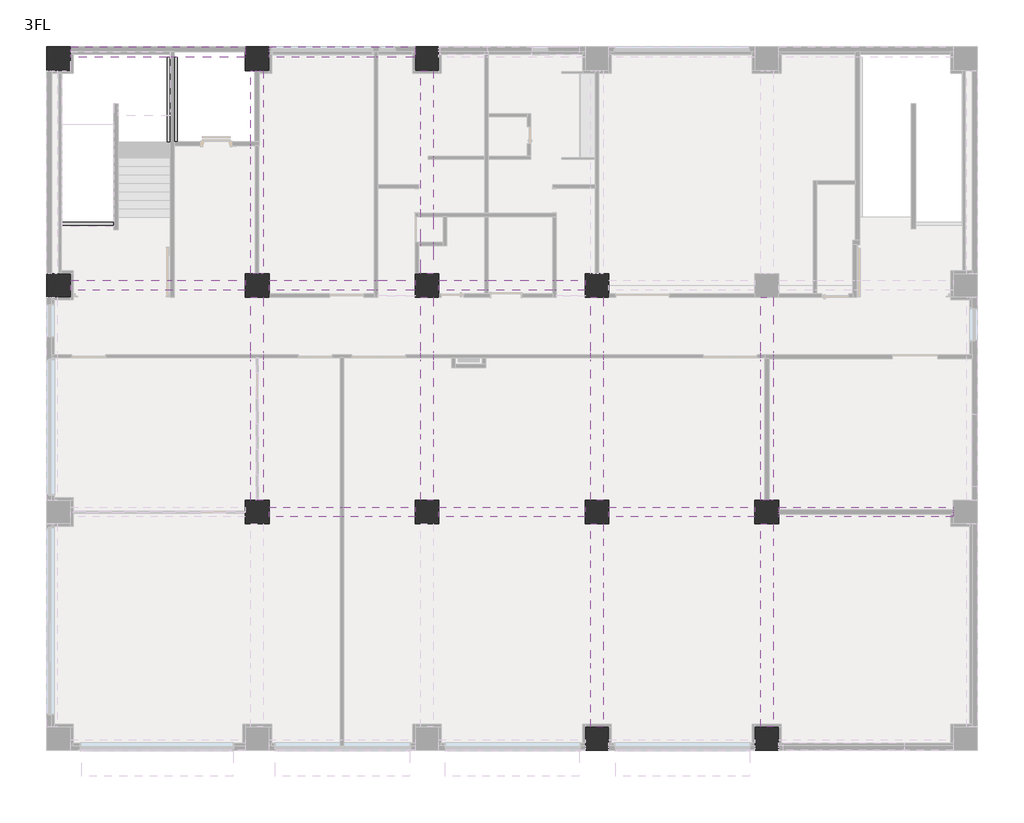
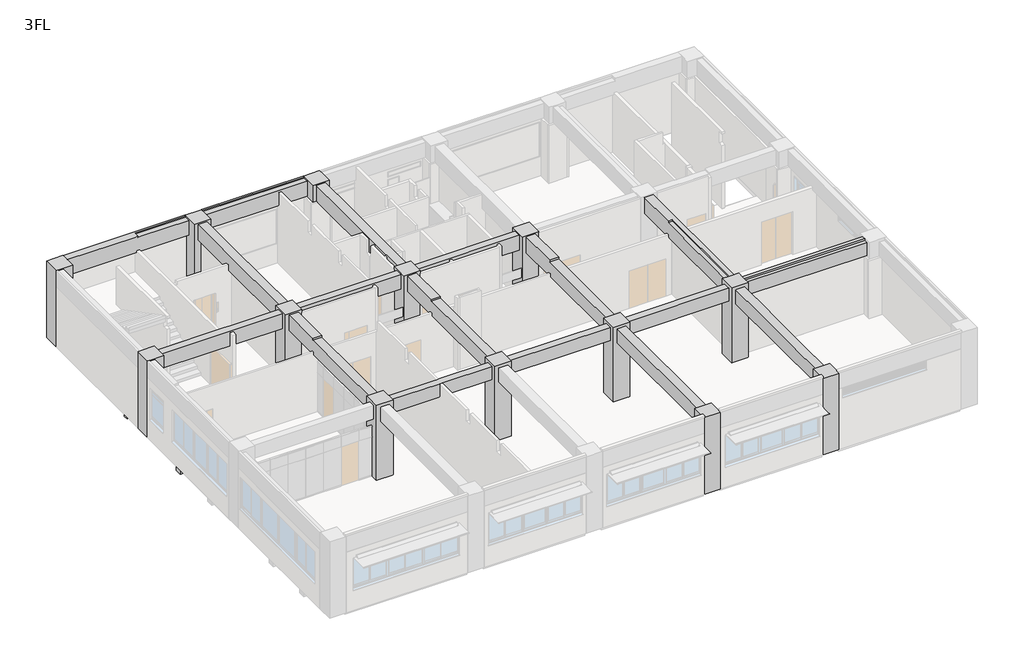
# One storey, part 5 of 6: 38 beams, 13 columns.
"""IFC4 building model written with IfcOpenShell, lengths in millimetres."""

from ifc_helpers import new_model, si_unit, frame, origin, place, context, project, spatial, polyline, outline, extrude, faceted_brep, element, save

model = new_model("IFC4")

# Units and contexts
model_context = context("Model", 3, world=origin())
ifc_project = project(units=[si_unit("LENGTHUNIT", "METRE", prefix="MILLI")], contexts=[model_context])

# Site, building, storey
site = spatial("IfcSite", under=ifc_project)
building = spatial("IfcBuilding", under=site)
storey = spatial("IfcBuildingStorey", under=building, Name="3FL", Elevation=8200.0)

# Beams
placement = place(None, origin())
element("IfcBeam", 1, ObjectType="営_RC梁 : 2-RG2 350*850", at=placement, inside=storey, context=model_context, shape_type="Brep", body=[
    faceted_brep([(7420.0, 7825.0, 11350.0), (9940.0, 7825.0, 11350.0), (10060.0, 7825.0, 11350.0), (12580.0, 7825.0, 11350.0), (12580.0, 7825.0, 12050.0), (10060.0, 7825.0, 12050.0), (9940.0, 7825.0, 12050.0), (7420.0, 7825.0, 12050.0), (7420.0, 8175.0, 11350.0), (9940.0, 8175.0, 11350.0), (10060.0, 8175.0, 11350.0), (12580.0, 8175.0, 11350.0), (7420.0, 8175.0, 12050.0), (9940.0, 8175.0, 12050.0), (10060.0, 8175.0, 12050.0), (12580.0, 8175.0, 12050.0)], [[[0, 1, 2, 3, 4, 5, 6, 7]], [[0, 8, 9, 10, 11, 3, 2, 1]], [[11, 10, 9, 8, 12, 13, 14, 15]], [[8, 0, 7, 12]], [[3, 11, 15, 4]], [[7, 6, 5, 4, 15, 14, 13, 12]]]),
])
element("IfcBeam", 2, ObjectType="営_RC梁 : 2-RG2 350*850", at=placement, inside=storey, context=model_context, shape_type="SweptSolid", body=[
    extrude(outline(polyline([(13420.0, 7825.0), (13420.0, 8175.0), (18580.0, 8175.0), (18580.0, 7825.0), (13420.0, 7825.0)])), frame((0.0, 0.0, 11350.0), z_axis=(0.0, 0.0, 1.0), x_axis=(1.0, 0.0, 0.0)), (0.0, 0.0, 1.0), 700.0),
])
element("IfcBeam", 3, ObjectType="営_RC梁 : 2-RG2 350*850", at=placement, inside=storey, context=model_context, shape_type="SweptSolid", body=[
    extrude(outline(polyline([(19420.0, 7825.0), (19420.0, 8175.0), (24580.0, 8175.0), (24580.0, 7825.0), (19420.0, 7825.0)])), frame((0.0, 0.0, 11350.0), z_axis=(0.0, 0.0, 1.0), x_axis=(1.0, 0.0, 0.0)), (0.0, 0.0, 1.0), 700.0),
])
element("IfcBeam", 4, ObjectType="営_RC梁 : 2-RG2 350*850", at=placement, inside=storey, context=model_context, shape_type="Brep", body=[
    faceted_brep([(25420.0, 7825.0, 11350.0), (31580.0, 7825.0, 11350.0), (31580.0, 7825.0, 12050.0), (25420.0, 7825.0, 12050.0), (25420.0, 7925.0, 11350.0), (25420.0, 8075.0, 11350.0), (25420.0, 8175.0, 11350.0), (31580.0, 8175.0, 11350.0), (31580.0, 8075.0, 11350.0), (31580.0, 7925.0, 11350.0), (25420.0, 8175.0, 12140.0), (31580.0, 8175.0, 12140.0), (25420.0, 8000.0, 12050.0), (25420.0, 8000.0, 12140.0), (31580.0, 8000.0, 12140.0), (31580.0, 8000.0, 12050.0)], [[[0, 1, 2, 3]], [[0, 4, 5, 6, 7, 8, 9, 1]], [[7, 6, 10, 11]], [[6, 5, 4, 0, 3, 12, 13, 10]], [[1, 9, 8, 7, 11, 14, 15, 2]], [[15, 12, 3, 2]], [[12, 15, 14, 13]], [[11, 10, 13, 14]]]),
])
element("IfcBeam", 5, ObjectType="営_RC梁 : 2-RG2 350*850", at=placement, inside=storey, context=model_context, shape_type="Brep", body=[
    faceted_brep([(420.0, 15825.0, 11350.0), (6580.0, 15825.0, 11350.0), (6580.0, 15825.0, 12140.0), (420.0, 15825.0, 12140.0), (6580.0, 16175.0, 11350.0), (420.0, 16175.0, 11350.0), (420.0, 16175.0, 12140.0), (3825.0, 16175.0, 12140.0), (4175.0, 16175.0, 12140.0), (6580.0, 16175.0, 12140.0)], [[[0, 1, 2, 3]], [[4, 1, 0, 5]], [[4, 5, 6, 7, 8, 9]], [[1, 4, 9, 2]], [[5, 0, 3, 6]], [[3, 2, 9, 8, 7, 6]]]),
])
element("IfcBeam", 6, ObjectType="営_RC梁 : 2-RG2 350*850", at=placement, inside=storey, context=model_context, shape_type="Brep", body=[
    faceted_brep([(7420.0, 15825.0, 11350.0), (11140.0, 15825.0, 11350.0), (11260.0, 15825.0, 11350.0), (12580.0, 15825.0, 11350.0), (12580.0, 15825.0, 12140.0), (7420.0, 15825.0, 12140.0), (7420.0, 16175.0, 11350.0), (11140.0, 16175.0, 11350.0), (11260.0, 16175.0, 11350.0), (12580.0, 16175.0, 11350.0), (7420.0, 16175.0, 12140.0), (12580.0, 16175.0, 12140.0)], [[[0, 1, 2, 3, 4, 5]], [[0, 6, 7, 8, 9, 3, 2, 1]], [[9, 8, 7, 6, 10, 11]], [[6, 0, 5, 10]], [[3, 9, 11, 4]], [[5, 4, 11, 10]]]),
])
element("IfcBeam", 7, ObjectType="営_RC梁 : 2-RG2 350*850", at=placement, inside=storey, context=model_context, shape_type="Brep", body=[
    faceted_brep([(13420.0, 15825.0, 11350.0), (15040.0, 15825.0, 11350.0), (15160.0, 15825.0, 11350.0), (17440.0, 15825.0, 11350.0), (17560.0, 15825.0, 11350.0), (18580.0, 15825.0, 11350.0), (18580.0, 15825.0, 12140.0), (13420.0, 15825.0, 12140.0), (13420.0, 16175.0, 11350.0), (15040.0, 16175.0, 11350.0), (15160.0, 16175.0, 11350.0), (17440.0, 16175.0, 11350.0), (17560.0, 16175.0, 11350.0), (18580.0, 16175.0, 11350.0), (13420.0, 16175.0, 12140.0), (18580.0, 16175.0, 12140.0)], [[[0, 1, 2, 3, 4, 5, 6, 7]], [[0, 8, 9, 10, 11, 12, 13, 5, 4, 3, 2, 1]], [[13, 12, 11, 10, 9, 8, 14, 15]], [[8, 0, 7, 14]], [[5, 13, 15, 6]], [[7, 6, 15, 14]]]),
])
element("IfcBeam", 8, ObjectType="営_RC梁 : 2-RG1 350*850", at=placement, inside=storey, context=model_context, shape_type="Brep", body=[
    faceted_brep([(420.0, 24050.0, 11350.0), (3925.0, 24050.0, 11350.0), (4075.0, 24050.0, 11350.0), (6580.0, 24050.0, 11350.0), (6580.0, 24050.0, 12140.0), (4175.0, 24050.0, 12140.0), (4000.0, 24050.0, 12140.0), (4000.0, 24050.0, 12200.0), (3825.0, 24050.0, 12200.0), (420.0, 24050.0, 12200.0), (6580.0, 24420.0, 11350.0), (6580.0, 24250.0, 11350.0), (420.0, 24250.0, 11350.0), (420.0, 24420.0, 11350.0), (6580.0, 24420.0, 12200.0), (420.0, 24420.0, 12200.0), (4000.0, 24335.0, 12200.0), (6580.0, 24335.0, 12200.0), (6580.0, 24335.0, 12140.0), (4000.0, 24335.0, 12140.0)], [[[0, 1, 2, 3, 4, 5, 6, 7, 8, 9]], [[10, 11, 3, 2, 1, 0, 12, 13]], [[14, 10, 13, 15]], [[14, 15, 9, 8, 7, 16, 17]], [[3, 11, 10, 14, 17, 18, 4]], [[0, 9, 15, 13, 12]], [[18, 19, 6, 5, 4]], [[19, 18, 17, 16]], [[6, 19, 16, 7]]]),
])
element("IfcBeam", 9, ObjectType="営_RC梁 : 2-RG1 350*850", at=placement, inside=storey, context=model_context, shape_type="Brep", body=[
    faceted_brep([(7420.0, 24050.0, 11350.0), (11140.0, 24050.0, 11350.0), (11260.0, 24050.0, 11350.0), (12580.0, 24050.0, 11350.0), (12580.0, 24050.0, 12140.0), (7420.0, 24050.0, 12140.0), (7420.0, 24250.0, 11350.0), (7420.0, 24420.0, 11350.0), (12580.0, 24420.0, 11350.0), (12580.0, 24250.0, 11350.0), (7420.0, 24420.0, 12200.0), (12580.0, 24420.0, 12200.0), (7420.0, 24335.0, 12200.0), (12580.0, 24335.0, 12200.0), (7420.0, 24335.0, 12140.0), (12580.0, 24335.0, 12140.0)], [[[0, 1, 2, 3, 4, 5]], [[0, 6, 7, 8, 9, 3, 2, 1]], [[7, 10, 11, 8]], [[11, 10, 12, 13]], [[7, 6, 0, 5, 14, 12, 10]], [[3, 9, 8, 11, 13, 15, 4]], [[15, 14, 5, 4]], [[14, 15, 13, 12]]]),
])
element("IfcBeam", 10, ObjectType="営_RC梁 : 2-4G12 450*900", at=placement, inside=storey, context=model_context, shape_type="Brep", body=[
    faceted_brep([(7225.0, 8420.0, 11300.0), (7225.0, 13440.0, 11300.0), (7225.0, 13560.0, 11300.0), (7225.0, 15580.0, 11300.0), (7225.0, 15580.0, 12140.0), (7225.0, 13675.0, 12140.0), (7225.0, 13500.0, 12140.0), (7225.0, 13500.0, 12050.0), (7225.0, 13325.0, 12050.0), (7225.0, 10925.0, 12050.0), (7225.0, 10575.0, 12050.0), (7225.0, 8420.0, 12050.0), (6775.0, 8420.0, 11300.0), (6775.0, 13440.0, 11300.0), (6775.0, 13560.0, 11300.0), (6775.0, 15580.0, 11300.0), (6775.0, 8420.0, 12050.0), (6775.0, 10575.0, 12050.0), (6775.0, 10925.0, 12050.0), (6775.0, 13325.0, 12050.0), (6775.0, 13500.0, 12050.0), (6775.0, 13500.0, 12140.0), (6775.0, 13675.0, 12140.0), (6775.0, 15580.0, 12140.0)], [[[0, 1, 2, 3, 4, 5, 6, 7, 8, 9, 10, 11]], [[0, 12, 13, 14, 15, 3, 2, 1]], [[15, 14, 13, 12, 16, 17, 18, 19, 20, 21, 22, 23]], [[12, 0, 11, 16]], [[3, 15, 23, 4]], [[7, 20, 19, 18, 17, 16, 11, 10, 9, 8]], [[20, 7, 6, 21]], [[6, 5, 4, 23, 22, 21]]]),
])
element("IfcBeam", 11, ObjectType="営_RC梁 : 2-4G12 450*900", at=placement, inside=storey, context=model_context, shape_type="Brep", body=[
    faceted_brep([(7225.0, 16420.0, 11300.0), (7225.0, 23580.0, 11300.0), (7225.0, 23580.0, 12140.0), (7225.0, 21515.0, 12140.0), (7225.0, 21165.0, 12140.0), (7225.0, 18845.0, 12140.0), (7225.0, 18495.0, 12140.0), (7225.0, 16420.0, 12140.0), (7060.0, 16420.0, 11300.0), (6940.0, 16420.0, 11300.0), (6775.0, 16420.0, 11300.0), (6775.0, 20925.0, 11300.0), (6775.0, 21075.0, 11300.0), (6775.0, 23580.0, 11300.0), (6925.0, 23580.0, 11300.0), (7075.0, 23580.0, 11300.0), (6775.0, 16420.0, 12140.0), (6775.0, 20825.0, 12140.0), (6775.0, 21075.0, 12140.0), (6775.0, 23580.0, 12140.0)], [[[0, 1, 2, 3, 4, 5, 6, 7]], [[0, 8, 9, 10, 11, 12, 13, 14, 15, 1]], [[13, 12, 11, 10, 16, 17, 18, 19]], [[10, 9, 8, 0, 7, 16]], [[1, 15, 14, 13, 19, 2]], [[7, 6, 5, 4, 3, 2, 19, 18, 17, 16]]]),
])
element("IfcBeam", 12, ObjectType="営_RC梁 : 2-4G12 450*900", at=placement, inside=storey, context=model_context, shape_type="Brep", body=[
    faceted_brep([(13225.0, 8420.0, 11300.0), (13225.0, 13440.0, 11300.0), (13225.0, 13560.0, 11300.0), (13225.0, 15580.0, 11300.0), (13225.0, 15580.0, 12140.0), (13225.0, 13675.0, 12140.0), (13225.0, 13500.0, 12140.0), (13225.0, 13500.0, 12050.0), (13225.0, 13325.0, 12050.0), (13225.0, 10925.0, 12050.0), (13225.0, 10575.0, 12050.0), (13225.0, 8420.0, 12050.0), (12775.0, 8420.0, 11300.0), (12775.0, 13440.0, 11300.0), (12775.0, 13560.0, 11300.0), (12775.0, 15580.0, 11300.0), (12775.0, 8420.0, 12050.0), (12775.0, 10575.0, 12050.0), (12775.0, 10925.0, 12050.0), (12775.0, 13325.0, 12050.0), (12775.0, 13500.0, 12050.0), (12775.0, 13500.0, 12140.0), (12775.0, 13675.0, 12140.0), (12775.0, 15580.0, 12140.0)], [[[0, 1, 2, 3, 4, 5, 6, 7, 8, 9, 10, 11]], [[0, 12, 13, 14, 15, 3, 2, 1]], [[15, 14, 13, 12, 16, 17, 18, 19, 20, 21, 22, 23]], [[12, 0, 11, 16]], [[3, 15, 23, 4]], [[7, 20, 19, 18, 17, 16, 11, 10, 9, 8]], [[20, 7, 6, 21]], [[6, 5, 4, 23, 22, 21]]]),
])
element("IfcBeam", 13, ObjectType="営_RC梁 : 2-4G12 450*900", at=placement, inside=storey, context=model_context, shape_type="Brep", body=[
    faceted_brep([(13225.0, 16420.0, 11300.0), (13225.0, 17400.0, 11300.0), (13225.0, 17520.0, 11300.0), (13225.0, 18430.0, 11300.0), (13225.0, 18550.0, 11300.0), (13225.0, 20450.0, 11300.0), (13225.0, 20570.0, 11300.0), (13225.0, 23580.0, 11300.0), (13225.0, 23580.0, 12140.0), (13225.0, 21515.0, 12140.0), (13225.0, 21165.0, 12140.0), (13225.0, 18845.0, 12140.0), (13225.0, 18495.0, 12140.0), (13225.0, 16420.0, 12140.0), (12775.0, 16420.0, 11300.0), (12775.0, 17400.0, 11300.0), (12775.0, 17520.0, 11300.0), (12775.0, 18430.0, 11300.0), (12775.0, 18550.0, 11300.0), (12775.0, 23580.0, 11300.0), (12775.0, 16420.0, 12140.0), (12775.0, 18495.0, 12140.0), (12775.0, 18845.0, 12140.0), (12775.0, 21165.0, 12140.0), (12775.0, 21515.0, 12140.0), (12775.0, 23580.0, 12140.0)], [[[0, 1, 2, 3, 4, 5, 6, 7, 8, 9, 10, 11, 12, 13]], [[0, 14, 15, 16, 17, 18, 19, 7, 6, 5, 4, 3, 2, 1]], [[19, 18, 17, 16, 15, 14, 20, 21, 22, 23, 24, 25]], [[14, 0, 13, 20]], [[7, 19, 25, 8]], [[13, 12, 11, 10, 9, 8, 25, 24, 23, 22, 21, 20]]]),
])
element("IfcBeam", 14, ObjectType="営_RC梁 : 2-4G12 450*900", at=placement, inside=storey, context=model_context, shape_type="Brep", body=[
    faceted_brep([(19225.0, 420.0, 11300.0), (19225.0, 7580.0, 11300.0), (19225.0, 7580.0, 12050.0), (19225.0, 5505.0, 12050.0), (19225.0, 5155.0, 12050.0), (19225.0, 2835.0, 12050.0), (19225.0, 2485.0, 12050.0), (19225.0, 420.0, 12050.0), (18775.0, 420.0, 11300.0), (18775.0, 7580.0, 11300.0), (18775.0, 420.0, 12050.0), (18775.0, 2485.0, 12050.0), (18775.0, 2835.0, 12050.0), (18775.0, 5155.0, 12050.0), (18775.0, 5505.0, 12050.0), (18775.0, 7580.0, 12050.0)], [[[0, 1, 2, 3, 4, 5, 6, 7]], [[0, 8, 9, 1]], [[9, 8, 10, 11, 12, 13, 14, 15]], [[8, 0, 7, 10]], [[1, 9, 15, 2]], [[7, 6, 5, 4, 3, 2, 15, 14, 13, 12, 11, 10]]]),
])
element("IfcBeam", 15, ObjectType="営_RC梁 : 2-4G12 450*900", at=placement, inside=storey, context=model_context, shape_type="Brep", body=[
    faceted_brep([(19225.0, 8420.0, 11300.0), (19225.0, 13440.0, 11300.0), (19225.0, 13560.0, 11300.0), (19225.0, 15580.0, 11300.0), (19225.0, 15580.0, 12140.0), (19225.0, 13675.0, 12140.0), (19225.0, 13500.0, 12140.0), (19225.0, 13500.0, 12050.0), (19225.0, 13325.0, 12050.0), (19225.0, 10925.0, 12050.0), (19225.0, 10575.0, 12050.0), (19225.0, 8420.0, 12050.0), (18775.0, 8420.0, 11300.0), (18775.0, 13440.0, 11300.0), (18775.0, 13560.0, 11300.0), (18775.0, 15580.0, 11300.0), (18775.0, 8420.0, 12050.0), (18775.0, 10575.0, 12050.0), (18775.0, 10925.0, 12050.0), (18775.0, 13325.0, 12050.0), (18775.0, 13500.0, 12050.0), (18775.0, 13500.0, 12140.0), (18775.0, 13675.0, 12140.0), (18775.0, 15580.0, 12140.0)], [[[0, 1, 2, 3, 4, 5, 6, 7, 8, 9, 10, 11]], [[0, 12, 13, 14, 15, 3, 2, 1]], [[15, 14, 13, 12, 16, 17, 18, 19, 20, 21, 22, 23]], [[12, 0, 11, 16]], [[3, 15, 23, 4]], [[7, 20, 19, 18, 17, 16, 11, 10, 9, 8]], [[20, 7, 6, 21]], [[6, 5, 4, 23, 22, 21]]]),
])
element("IfcBeam", 16, ObjectType="営_RC梁 : 2-4G12 450*900", at=placement, inside=storey, context=model_context, shape_type="Brep", body=[
    faceted_brep([(25225.0, 420.0, 11300.0), (25225.0, 7580.0, 11300.0), (25225.0, 7580.0, 12050.0), (25225.0, 5505.0, 12050.0), (25225.0, 5155.0, 12050.0), (25225.0, 2835.0, 12050.0), (25225.0, 2485.0, 12050.0), (25225.0, 420.0, 12050.0), (24775.0, 420.0, 11300.0), (24775.0, 7580.0, 11300.0), (24775.0, 420.0, 12050.0), (24775.0, 2485.0, 12050.0), (24775.0, 2835.0, 12050.0), (24775.0, 5155.0, 12050.0), (24775.0, 5505.0, 12050.0), (24775.0, 7580.0, 12050.0)], [[[0, 1, 2, 3, 4, 5, 6, 7]], [[0, 8, 9, 1]], [[9, 8, 10, 11, 12, 13, 14, 15]], [[8, 0, 7, 10]], [[1, 9, 15, 2]], [[7, 6, 5, 4, 3, 2, 15, 14, 13, 12, 11, 10]]]),
])
element("IfcBeam", 17, ObjectType="営_RC梁 : 2-4G12 450*900", at=placement, inside=storey, context=model_context, shape_type="Brep", body=[
    faceted_brep([(25225.0, 8420.0, 11300.0), (25225.0, 13405.0, 11300.0), (25225.0, 13555.0, 11300.0), (25225.0, 15580.0, 11300.0), (25225.0, 15580.0, 12140.0), (25225.0, 13675.0, 12140.0), (25225.0, 13325.0, 12140.0), (25225.0, 10925.0, 12140.0), (25225.0, 10575.0, 12140.0), (25225.0, 8420.0, 12140.0), (25075.0, 8420.0, 11300.0), (24925.0, 8420.0, 11300.0), (24775.0, 8420.0, 11300.0), (24775.0, 13440.0, 11300.0), (24775.0, 13560.0, 11300.0), (24775.0, 15580.0, 11300.0), (24775.0, 8420.0, 12050.0), (24775.0, 10575.0, 12050.0), (24775.0, 10925.0, 12050.0), (24775.0, 13325.0, 12050.0), (24775.0, 13500.0, 12050.0), (24775.0, 13500.0, 12140.0), (24775.0, 13675.0, 12140.0), (24775.0, 15580.0, 12140.0), (25000.0, 8420.0, 12140.0), (25000.0, 8420.0, 12050.0), (25000.0, 13500.0, 12050.0), (25000.0, 13500.0, 12140.0)], [[[0, 1, 2, 3, 4, 5, 6, 7, 8, 9]], [[0, 10, 11, 12, 13, 14, 15, 3, 2, 1]], [[15, 14, 13, 12, 16, 17, 18, 19, 20, 21, 22, 23]], [[12, 11, 10, 0, 9, 24, 25, 16]], [[3, 15, 23, 4]], [[25, 26, 20, 19, 18, 17, 16]], [[20, 26, 27, 21]], [[26, 25, 24, 27]], [[9, 8, 7, 6, 5, 4, 23, 22, 21, 27, 24]]]),
])
element("IfcBeam", 18, ObjectType="営_RC梁 : B2 350*750", at=placement, inside=storey, context=model_context, shape_type="SweptSolid", body=[
    extrude(outline(polyline([(25225.0, 2485.0), (25225.0, 2835.0), (32050.0, 2835.0), (32050.0, 2485.0), (25225.0, 2485.0)])), frame((0.0, 0.0, 7350.0), z_axis=(0.0, 0.0, 1.0), x_axis=(1.0, 0.0, 0.0)), (0.0, 0.0, 1.0), 600.0),
])
element("IfcBeam", 19, ObjectType="営_RC梁 : B2 350*750", at=placement, inside=storey, context=model_context, shape_type="SweptSolid", body=[
    extrude(outline(polyline([(25225.0, 5155.0), (25225.0, 5505.0), (32050.0, 5505.0), (32050.0, 5155.0), (25225.0, 5155.0)])), frame((0.0, 0.0, 7350.0), z_axis=(0.0, 0.0, 1.0), x_axis=(1.0, 0.0, 0.0)), (0.0, 0.0, 1.0), 600.0),
])
element("IfcBeam", 20, ObjectType="営_RC梁 : B2 350*750", at=placement, inside=storey, context=model_context, shape_type="SweptSolid", body=[
    extrude(outline(polyline([(25225.0, 10575.0), (25225.0, 10925.0), (32050.0, 10925.0), (32050.0, 10575.0), (25225.0, 10575.0)])), frame((0.0, 0.0, 7350.0), z_axis=(0.0, 0.0, 1.0), x_axis=(1.0, 0.0, 0.0)), (0.0, 0.0, 1.0), 690.0),
])
element("IfcBeam", 21, ObjectType="営_RC梁 : B2 350*750", at=placement, inside=storey, context=model_context, shape_type="Brep", body=[
    faceted_brep([(25225.0, 13325.0, 7350.0), (32050.0, 13325.0, 7350.0), (32050.0, 13325.0, 8040.0), (25225.0, 13325.0, 8040.0), (25225.0, 13410.0, 7350.0), (25225.0, 13560.0, 7350.0), (25225.0, 13675.0, 7350.0), (32050.0, 13675.0, 7350.0), (32050.0, 13560.0, 7350.0), (32050.0, 13410.0, 7350.0), (25225.0, 13675.0, 8040.0), (32050.0, 13675.0, 8040.0)], [[[0, 1, 2, 3]], [[0, 4, 5, 6, 7, 8, 9, 1]], [[7, 6, 10, 11]], [[6, 5, 4, 0, 3, 10]], [[1, 9, 8, 7, 11, 2]], [[3, 2, 11, 10]]]),
])
element("IfcBeam", 22, ObjectType="営_RC梁 : B2 350*750", at=placement, inside=storey, context=model_context, shape_type="Brep", body=[
    faceted_brep([(19225.0, 2485.0, 7350.0), (20940.0, 2485.0, 7350.0), (21060.0, 2485.0, 7350.0), (24775.0, 2485.0, 7350.0), (24775.0, 2485.0, 7950.0), (21060.0, 2485.0, 7950.0), (20940.0, 2485.0, 7950.0), (19225.0, 2485.0, 7950.0), (19225.0, 2835.0, 7350.0), (20940.0, 2835.0, 7350.0), (21060.0, 2835.0, 7350.0), (24775.0, 2835.0, 7350.0), (19225.0, 2835.0, 7950.0), (20940.0, 2835.0, 7950.0), (21060.0, 2835.0, 7950.0), (24775.0, 2835.0, 7950.0)], [[[0, 1, 2, 3, 4, 5, 6, 7]], [[0, 8, 9, 10, 11, 3, 2, 1]], [[11, 10, 9, 8, 12, 13, 14, 15]], [[8, 0, 7, 12]], [[3, 11, 15, 4]], [[7, 6, 5, 4, 15, 14, 13, 12]]]),
])
element("IfcBeam", 23, ObjectType="営_RC梁 : B2 350*750", at=placement, inside=storey, context=model_context, shape_type="Brep", body=[
    faceted_brep([(19225.0, 5155.0, 7350.0), (20940.0, 5155.0, 7350.0), (21060.0, 5155.0, 7350.0), (24775.0, 5155.0, 7350.0), (24775.0, 5155.0, 7950.0), (21060.0, 5155.0, 7950.0), (20940.0, 5155.0, 7950.0), (19225.0, 5155.0, 7950.0), (19225.0, 5505.0, 7350.0), (20940.0, 5505.0, 7350.0), (21060.0, 5505.0, 7350.0), (24775.0, 5505.0, 7350.0), (19225.0, 5505.0, 7950.0), (20940.0, 5505.0, 7950.0), (21060.0, 5505.0, 7950.0), (24775.0, 5505.0, 7950.0)], [[[0, 1, 2, 3, 4, 5, 6, 7]], [[0, 8, 9, 10, 11, 3, 2, 1]], [[11, 10, 9, 8, 12, 13, 14, 15]], [[8, 0, 7, 12]], [[3, 11, 15, 4]], [[7, 6, 5, 4, 15, 14, 13, 12]]]),
])
element("IfcBeam", 24, ObjectType="営_RC梁 : B2 350*750", at=placement, inside=storey, context=model_context, shape_type="Brep", body=[
    faceted_brep([(19225.0, 10575.0, 7350.0), (20940.0, 10575.0, 7350.0), (21060.0, 10575.0, 7350.0), (24775.0, 10575.0, 7350.0), (24775.0, 10575.0, 7950.0), (21060.0, 10575.0, 7950.0), (20940.0, 10575.0, 7950.0), (19225.0, 10575.0, 7950.0), (19225.0, 10925.0, 7350.0), (20940.0, 10925.0, 7350.0), (21060.0, 10925.0, 7350.0), (24775.0, 10925.0, 7350.0), (19225.0, 10925.0, 7950.0), (20940.0, 10925.0, 7950.0), (21060.0, 10925.0, 7950.0), (24775.0, 10925.0, 7950.0)], [[[0, 1, 2, 3, 4, 5, 6, 7]], [[0, 8, 9, 10, 11, 3, 2, 1]], [[11, 10, 9, 8, 12, 13, 14, 15]], [[8, 0, 7, 12]], [[3, 11, 15, 4]], [[7, 6, 5, 4, 15, 14, 13, 12]]]),
])
element("IfcBeam", 25, ObjectType="営_RC梁 : B2 350*750", at=placement, inside=storey, context=model_context, shape_type="Brep", body=[
    faceted_brep([(19225.0, 13325.0, 7350.0), (20940.0, 13325.0, 7350.0), (21060.0, 13325.0, 7350.0), (24775.0, 13325.0, 7350.0), (24775.0, 13325.0, 7950.0), (21060.0, 13325.0, 7950.0), (20940.0, 13325.0, 7950.0), (19225.0, 13325.0, 7950.0), (19225.0, 13675.0, 7350.0), (24775.0, 13675.0, 7350.0), (24775.0, 13560.0, 7350.0), (24775.0, 13440.0, 7350.0), (19225.0, 13675.0, 8040.0), (24775.0, 13675.0, 8040.0), (19225.0, 13500.0, 7950.0), (19225.0, 13500.0, 8040.0), (24775.0, 13500.0, 8040.0), (24775.0, 13500.0, 7950.0)], [[[0, 1, 2, 3, 4, 5, 6, 7]], [[0, 8, 9, 10, 11, 3, 2, 1]], [[9, 8, 12, 13]], [[8, 0, 7, 14, 15, 12]], [[3, 11, 10, 9, 13, 16, 17, 4]], [[17, 14, 7, 6, 5, 4]], [[14, 17, 16, 15]], [[13, 12, 15, 16]]]),
])
element("IfcBeam", 26, ObjectType="営_RC梁 : B2 350*750", at=placement, inside=storey, context=model_context, shape_type="SweptSolid", body=[
    extrude(outline(polyline([(13225.0, 5155.0), (13225.0, 5505.0), (18775.0, 5505.0), (18775.0, 5155.0), (13225.0, 5155.0)])), frame((0.0, 0.0, 7350.0), z_axis=(0.0, 0.0, 1.0), x_axis=(1.0, 0.0, 0.0)), (0.0, 0.0, 1.0), 600.0),
])
element("IfcBeam", 27, ObjectType="営_RC梁 : B2 350*750", at=placement, inside=storey, context=model_context, shape_type="SweptSolid", body=[
    extrude(outline(polyline([(13225.0, 2485.0), (13225.0, 2835.0), (18775.0, 2835.0), (18775.0, 2485.0), (13225.0, 2485.0)])), frame((0.0, 0.0, 7350.0), z_axis=(0.0, 0.0, 1.0), x_axis=(1.0, 0.0, 0.0)), (0.0, 0.0, 1.0), 600.0),
])
element("IfcBeam", 28, ObjectType="営_RC梁 : B1 350*750", at=placement, inside=storey, context=model_context, shape_type="SweptSolid", body=[
    extrude(outline(polyline([(13675.0, 7350.0), (13325.0, 7350.0), (13325.0, 7950.0), (13500.0, 7950.0), (13500.0, 8040.0), (13675.0, 8040.0), (13675.0, 7350.0)])), frame((-50.0, 0.0, 0.0), z_axis=(1.0, 0.0, 0.0), x_axis=(0.0, 1.0, 0.0)), (0.0, 0.0, 1.0), 6825.0),
])
element("IfcBeam", 29, ObjectType="営_RC梁 : B2 350*750", at=placement, inside=storey, context=model_context, shape_type="SweptSolid", body=[
    extrude(outline(polyline([(7225.0, 10575.0), (7225.0, 10925.0), (12775.0, 10925.0), (12775.0, 10575.0), (7225.0, 10575.0)])), frame((0.0, 0.0, 7350.0), z_axis=(0.0, 0.0, 1.0), x_axis=(1.0, 0.0, 0.0)), (0.0, 0.0, 1.0), 600.0),
])
element("IfcBeam", 30, ObjectType="営_RC梁 : B2 350*750", at=placement, inside=storey, context=model_context, shape_type="SweptSolid", body=[
    extrude(outline(polyline([(13675.0, 7350.0), (13325.0, 7350.0), (13325.0, 7950.0), (13500.0, 7950.0), (13500.0, 8040.0), (13675.0, 8040.0), (13675.0, 7350.0)])), frame((7225.0, 0.0, 0.0), z_axis=(1.0, 0.0, 0.0), x_axis=(0.0, 1.0, 0.0)), (0.0, 0.0, 1.0), 5550.0),
])
element("IfcBeam", 31, ObjectType="営_RC梁 : B2 350*750", at=placement, inside=storey, context=model_context, shape_type="SweptSolid", body=[
    extrude(outline(polyline([(18775.0, 10925.0), (18775.0, 10575.0), (13225.0, 10575.0), (13225.0, 10925.0), (18775.0, 10925.0)])), frame((0.0, 0.0, 7350.0), z_axis=(0.0, 0.0, 1.0), x_axis=(1.0, 0.0, 0.0)), (0.0, 0.0, 1.0), 600.0),
])
element("IfcBeam", 32, ObjectType="営_RC梁 : B2 350*750", at=placement, inside=storey, context=model_context, shape_type="Brep", body=[
    faceted_brep([(13225.0, 13325.0, 7350.0), (13870.0, 13325.0, 7350.0), (13990.0, 13325.0, 7350.0), (14950.0, 13325.0, 7350.0), (15070.0, 13325.0, 7350.0), (18775.0, 13325.0, 7350.0), (18775.0, 13325.0, 7950.0), (15070.0, 13325.0, 7950.0), (14950.0, 13325.0, 7950.0), (13990.0, 13325.0, 7950.0), (13870.0, 13325.0, 7950.0), (13225.0, 13325.0, 7950.0), (18775.0, 13675.0, 7350.0), (13225.0, 13675.0, 7350.0), (13225.0, 13675.0, 8040.0), (18775.0, 13675.0, 8040.0), (18775.0, 13500.0, 8040.0), (18775.0, 13500.0, 7950.0), (13225.0, 13500.0, 7950.0), (13225.0, 13500.0, 8040.0)], [[[0, 1, 2, 3, 4, 5, 6, 7, 8, 9, 10, 11]], [[12, 5, 4, 3, 2, 1, 0, 13]], [[12, 13, 14, 15]], [[5, 12, 15, 16, 17, 6]], [[13, 0, 11, 18, 19, 14]], [[17, 18, 11, 10, 9, 8, 7, 6]], [[18, 17, 16, 19]], [[15, 14, 19, 16]]]),
])
element("IfcBeam", 33, ObjectType="営_RC梁 : B1 350*750", at=placement, inside=storey, context=model_context, shape_type="Brep", body=[
    faceted_brep([(13225.0, 18495.0, 7350.0), (13570.0, 18495.0, 7350.0), (13690.0, 18495.0, 7350.0), (15160.0, 18495.0, 7350.0), (17560.0, 18495.0, 7350.0), (18775.0, 18495.0, 7350.0), (18775.0, 18495.0, 8040.0), (13225.0, 18495.0, 8040.0), (13225.0, 18495.0, 7950.0), (13225.0, 18550.0, 7350.0), (13225.0, 18845.0, 7350.0), (15040.0, 18845.0, 7350.0), (15160.0, 18845.0, 7350.0), (17440.0, 18845.0, 7350.0), (17560.0, 18845.0, 7350.0), (18775.0, 18845.0, 7350.0), (13225.0, 18845.0, 8040.0), (18775.0, 18845.0, 8040.0)], [[[0, 1, 2, 3, 4, 5, 6, 7, 8]], [[0, 9, 10, 11, 12, 13, 14, 15, 5, 4, 3, 2, 1]], [[15, 14, 13, 12, 11, 10, 16, 17]], [[10, 9, 0, 8, 7, 16]], [[5, 15, 17, 6]], [[7, 6, 17, 16]]]),
])
element("IfcBeam", 34, ObjectType="営_RC梁 : B1 350*750", at=placement, inside=storey, context=model_context, shape_type="Brep", body=[
    faceted_brep([(7225.0, 18495.0, 7350.0), (11140.0, 18495.0, 7350.0), (11260.0, 18495.0, 7350.0), (12580.0, 18495.0, 7350.0), (12700.0, 18495.0, 7350.0), (12775.0, 18495.0, 7350.0), (12775.0, 18495.0, 7950.0), (12775.0, 18495.0, 8040.0), (11200.0, 18495.0, 8040.0), (11200.0, 18495.0, 7950.0), (11140.0, 18495.0, 7950.0), (7225.0, 18495.0, 7950.0), (7225.0, 18845.0, 7350.0), (11140.0, 18845.0, 7350.0), (11260.0, 18845.0, 7350.0), (12580.0, 18845.0, 7350.0), (12700.0, 18845.0, 7350.0), (12775.0, 18845.0, 7350.0), (12775.0, 18550.0, 7350.0), (7225.0, 18845.0, 7950.0), (11140.0, 18845.0, 7950.0), (11200.0, 18845.0, 7950.0), (11200.0, 18845.0, 8040.0), (12775.0, 18845.0, 8040.0)], [[[0, 1, 2, 3, 4, 5, 6, 7, 8, 9, 10, 11]], [[0, 12, 13, 14, 15, 16, 17, 18, 5, 4, 3, 2, 1]], [[17, 16, 15, 14, 13, 12, 19, 20, 21, 22, 23]], [[12, 0, 11, 19]], [[5, 18, 17, 23, 7, 6]], [[8, 7, 23, 22]], [[9, 21, 20, 19, 11, 10]], [[21, 9, 8, 22]]]),
])
element("IfcBeam", 35, ObjectType="営_RC梁 : B1 350*750", at=placement, inside=storey, context=model_context, shape_type="Brep", body=[
    faceted_brep([(7225.0, 21165.0, 7350.0), (11140.0, 21165.0, 7350.0), (11260.0, 21165.0, 7350.0), (12775.0, 21165.0, 7350.0), (12775.0, 21165.0, 8040.0), (11200.0, 21165.0, 8040.0), (11200.0, 21165.0, 7950.0), (11140.0, 21165.0, 7950.0), (7225.0, 21165.0, 7950.0), (7225.0, 21515.0, 7350.0), (11140.0, 21515.0, 7350.0), (11260.0, 21515.0, 7350.0), (12775.0, 21515.0, 7350.0), (7225.0, 21515.0, 7950.0), (11140.0, 21515.0, 7950.0), (11200.0, 21515.0, 7950.0), (11200.0, 21515.0, 8040.0), (12775.0, 21515.0, 8040.0)], [[[0, 1, 2, 3, 4, 5, 6, 7, 8]], [[0, 9, 10, 11, 12, 3, 2, 1]], [[12, 11, 10, 9, 13, 14, 15, 16, 17]], [[9, 0, 8, 13]], [[3, 12, 17, 4]], [[5, 4, 17, 16]], [[6, 15, 14, 13, 8, 7]], [[15, 6, 5, 16]]]),
])
element("IfcBeam", 36, ObjectType="営_RC梁 : B3 250*600", at=placement, inside=storey, context=model_context, shape_type="Brep", body=[
    faceted_brep([(4306.3, 21075.0, 7500.0), (4306.3, 20925.0, 7500.0), (4306.3, 20825.0, 7500.0), (4306.3, 20825.0, 8040.0), (4306.3, 21075.0, 8040.0), (4306.3, 21075.0, 7950.0), (6775.0, 20825.0, 7500.0), (6775.0, 20825.0, 8040.0), (6775.0, 21075.0, 7500.0), (6775.0, 20925.0, 7500.0), (6775.0, 21075.0, 8040.0)], [[[0, 1, 2, 3, 4, 5]], [[2, 6, 7, 3]], [[2, 1, 0, 8, 9, 6]], [[8, 0, 5, 4, 10]], [[6, 9, 8, 10, 7]], [[4, 3, 7, 10]]]),
])
element("IfcBeam", 37, ObjectType="営_RC梁 : B4 350*750", at=placement, inside=storey, context=model_context, shape_type="Brep", body=[
    faceted_brep([(4175.0, 16175.0, 7350.0), (4175.0, 20925.0, 7350.0), (4175.0, 21075.0, 7350.0), (4175.0, 24050.0, 7350.0), (4175.0, 24050.0, 8100.0), (4175.0, 21075.0, 8100.0), (4175.0, 21075.0, 8040.0), (4175.0, 16175.0, 8040.0), (3825.0, 16175.0, 7350.0), (3825.0, 24050.0, 7350.0), (3925.0, 24050.0, 7350.0), (4075.0, 24050.0, 7350.0), (3825.0, 16175.0, 8040.0), (3825.0, 17975.0, 8040.0), (3825.0, 18225.0, 8040.0), (3825.0, 18400.0, 8040.0), (3825.0, 18400.0, 8100.0), (3825.0, 24050.0, 8100.0), (4000.0, 18400.0, 8100.0), (4000.0, 21075.0, 8100.0), (4000.0, 21075.0, 8040.0), (4000.0, 18400.0, 8040.0)], [[[0, 1, 2, 3, 4, 5, 6, 7]], [[0, 8, 9, 10, 11, 3, 2, 1]], [[9, 8, 12, 13, 14, 15, 16, 17]], [[4, 17, 16, 18, 19, 5]], [[8, 0, 7, 12]], [[4, 3, 11, 10, 9, 17]], [[20, 21, 15, 14, 13, 12, 7, 6]], [[15, 21, 18, 16]], [[21, 20, 19, 18]], [[20, 6, 5, 19]]]),
])
element("IfcBeam", 38, ObjectType="営_RC梁 : B3 250*600", at=placement, inside=storey, context=model_context, shape_type="Brep", body=[
    faceted_brep([(-50.0, 17975.0, 7500.0), (3825.0, 17975.0, 7500.0), (3825.0, 17975.0, 8040.0), (-50.0, 17975.0, 8040.0), (3825.0, 18225.0, 7500.0), (-50.0, 18225.0, 7500.0), (1945.0, 18225.0, 7500.0), (2095.0, 18225.0, 7500.0), (-50.0, 18225.0, 8040.0), (100.0, 18225.0, 8040.0), (100.0, 18225.0, 8100.0), (1945.0, 18225.0, 8100.0), (2095.0, 18225.0, 8100.0), (2095.0, 18225.0, 8040.0), (3825.0, 18225.0, 8040.0), (100.0, 18100.0, 8100.0), (1945.0, 18100.0, 8100.0), (1945.0, 18005.0, 8100.0), (2095.0, 18005.0, 8100.0), (1945.0, 18100.0, 8040.0), (100.0, 18100.0, 8040.0), (2095.0, 18005.0, 8040.0), (1945.0, 18005.0, 8040.0)], [[[0, 1, 2, 3]], [[4, 1, 0, 5, 6, 7]], [[4, 7, 6, 5, 8, 9, 10, 11, 12, 13, 14]], [[12, 11, 10, 15, 16, 17, 18]], [[1, 4, 14, 2]], [[5, 0, 3, 8]], [[19, 20, 9, 8, 3, 2, 14, 13, 21, 22]], [[9, 20, 15, 10]], [[20, 19, 16, 15]], [[19, 22, 17, 16]], [[22, 21, 18, 17]], [[21, 13, 12, 18]]]),
])

# Columns
element("IfcColumn", 39, ObjectType="営_RC柱_角 : 800*800", at=placement, inside=storey, context=model_context, shape_type="Brep", body=[
    faceted_brep([(19420.0, 420.0, 8100.0), (19420.0, -250.0, 8100.0), (19420.0, -420.0, 8100.0), (18580.0, -420.0, 8100.0), (18580.0, -250.0, 8100.0), (18580.0, 420.0, 8100.0), (19420.0, 420.0, 12200.0), (19420.0, -325.0, 12200.0), (19420.0, -420.0, 12200.0), (19420.0, -420.0, 11350.0), (19420.0, 420.0, 8180.0), (19420.0, 420.0, 8190.0), (19420.0, 420.0, 12050.0), (19395.0, -420.0, 12200.0), (18605.0, -420.0, 12200.0), (18580.0, -420.0, 12200.0), (18580.0, -420.0, 11350.0), (18580.0, -325.0, 12200.0), (18580.0, 420.0, 12200.0), (18580.0, 420.0, 12050.0), (18580.0, 420.0, 8190.0), (18580.0, 420.0, 8180.0)], [[[0, 1, 2, 3, 4, 5]], [[6, 7, 8, 9, 2, 1, 0, 10, 11, 12]], [[8, 13, 14, 15, 16, 3, 2, 9]], [[15, 17, 18, 19, 20, 21, 5, 4, 3, 16]], [[18, 6, 12, 11, 10, 0, 5, 21, 20, 19]], [[6, 18, 17, 15, 14, 13, 8, 7]]]),
])
element("IfcColumn", 40, ObjectType="営_RC柱_角 : 800*800", at=placement, inside=storey, context=model_context, shape_type="Brep", body=[
    faceted_brep([(25420.0, 420.0, 8100.0), (25420.0, -250.0, 8100.0), (25420.0, -420.0, 8100.0), (24580.0, -420.0, 8100.0), (24580.0, -250.0, 8100.0), (24580.0, 420.0, 8100.0), (25420.0, 420.0, 12200.0), (25420.0, -325.0, 12200.0), (25420.0, -420.0, 12200.0), (25420.0, -420.0, 11350.0), (25420.0, 420.0, 8180.0), (25420.0, 420.0, 8190.0), (25420.0, 420.0, 12050.0), (25395.0, -420.0, 12200.0), (24605.0, -420.0, 12200.0), (24580.0, -420.0, 12200.0), (24580.0, -420.0, 11350.0), (24580.0, -325.0, 12200.0), (24580.0, 420.0, 12200.0), (24580.0, 420.0, 12050.0), (24580.0, 420.0, 8190.0), (24580.0, 420.0, 8180.0)], [[[0, 1, 2, 3, 4, 5]], [[6, 7, 8, 9, 2, 1, 0, 10, 11, 12]], [[8, 13, 14, 15, 16, 3, 2, 9]], [[15, 17, 18, 19, 20, 21, 5, 4, 3, 16]], [[18, 6, 12, 11, 10, 0, 5, 21, 20, 19]], [[6, 18, 17, 15, 14, 13, 8, 7]]]),
])
element("IfcColumn", 41, ObjectType="営_RC柱_角 : 800*800", at=placement, inside=storey, context=model_context, shape_type="Brep", body=[
    faceted_brep([(7420.0, 8420.0, 8100.0), (7420.0, 7580.0, 8100.0), (6580.0, 7580.0, 8100.0), (6580.0, 8420.0, 8100.0), (7420.0, 8420.0, 12200.0), (7420.0, 7580.0, 12200.0), (7420.0, 7580.0, 12050.0), (7420.0, 7580.0, 8190.0), (7420.0, 7580.0, 8180.0), (7420.0, 8420.0, 8180.0), (7420.0, 8420.0, 8190.0), (7420.0, 8420.0, 12050.0), (6580.0, 7580.0, 12200.0), (6580.0, 7580.0, 12050.0), (6580.0, 7580.0, 8190.0), (6580.0, 7580.0, 8180.0), (6580.0, 8420.0, 12200.0), (6580.0, 8420.0, 12050.0), (6580.0, 8420.0, 8190.0), (6580.0, 8420.0, 8180.0)], [[[0, 1, 2, 3]], [[4, 5, 6, 7, 8, 1, 0, 9, 10, 11]], [[5, 12, 13, 14, 15, 2, 1, 8, 7, 6]], [[12, 16, 17, 18, 19, 3, 2, 15, 14, 13]], [[16, 4, 11, 10, 9, 0, 3, 19, 18, 17]], [[4, 16, 12, 5]]]),
])
element("IfcColumn", 42, ObjectType="営_RC柱_角 : 800*800", at=placement, inside=storey, context=model_context, shape_type="Brep", body=[
    faceted_brep([(13420.0, 8420.0, 8100.0), (13420.0, 7580.0, 8100.0), (12580.0, 7580.0, 8100.0), (12580.0, 8420.0, 8100.0), (13420.0, 8420.0, 12200.0), (13420.0, 7580.0, 12200.0), (13420.0, 7580.0, 12050.0), (13420.0, 7580.0, 8190.0), (13420.0, 7580.0, 8180.0), (13420.0, 8420.0, 8180.0), (13420.0, 8420.0, 8190.0), (13420.0, 8420.0, 12050.0), (12580.0, 7580.0, 12200.0), (12580.0, 7580.0, 12050.0), (12580.0, 7580.0, 8190.0), (12580.0, 7580.0, 8180.0), (12580.0, 8420.0, 12200.0), (12580.0, 8420.0, 12050.0), (12580.0, 8420.0, 8190.0), (12580.0, 8420.0, 8180.0)], [[[0, 1, 2, 3]], [[4, 5, 6, 7, 8, 1, 0, 9, 10, 11]], [[5, 12, 13, 14, 15, 2, 1, 8, 7, 6]], [[12, 16, 17, 18, 19, 3, 2, 15, 14, 13]], [[16, 4, 11, 10, 9, 0, 3, 19, 18, 17]], [[4, 16, 12, 5]]]),
])
element("IfcColumn", 43, ObjectType="営_RC柱_角 : 800*800", at=placement, inside=storey, context=model_context, shape_type="Brep", body=[
    faceted_brep([(19420.0, 8420.0, 8100.0), (19420.0, 7580.0, 8100.0), (18580.0, 7580.0, 8100.0), (18580.0, 8420.0, 8100.0), (19420.0, 8420.0, 12200.0), (19420.0, 7580.0, 12200.0), (19420.0, 7580.0, 12050.0), (19420.0, 7580.0, 8190.0), (19420.0, 7580.0, 8180.0), (19420.0, 8420.0, 8180.0), (19420.0, 8420.0, 8190.0), (19420.0, 8420.0, 12050.0), (18580.0, 7580.0, 12200.0), (18580.0, 7580.0, 12050.0), (18580.0, 7580.0, 8190.0), (18580.0, 7580.0, 8180.0), (18580.0, 8420.0, 12200.0), (18580.0, 8420.0, 12050.0), (18580.0, 8420.0, 8190.0), (18580.0, 8420.0, 8180.0)], [[[0, 1, 2, 3]], [[4, 5, 6, 7, 8, 1, 0, 9, 10, 11]], [[5, 12, 13, 14, 15, 2, 1, 8, 7, 6]], [[12, 16, 17, 18, 19, 3, 2, 15, 14, 13]], [[16, 4, 11, 10, 9, 0, 3, 19, 18, 17]], [[4, 16, 12, 5]]]),
])
element("IfcColumn", 44, ObjectType="営_RC柱_角 : 800*800", at=placement, inside=storey, context=model_context, shape_type="Brep", body=[
    faceted_brep([(25420.0, 8420.0, 8100.0), (25420.0, 7580.0, 8100.0), (24580.0, 7580.0, 8100.0), (24580.0, 8420.0, 8100.0), (25420.0, 8420.0, 12200.0), (25420.0, 8000.0, 12200.0), (25420.0, 7580.0, 12200.0), (25420.0, 7580.0, 12050.0), (25420.0, 7580.0, 8190.0), (25420.0, 7580.0, 8180.0), (25420.0, 8420.0, 8190.0), (25420.0, 8420.0, 12140.0), (24580.0, 7580.0, 12200.0), (24580.0, 7580.0, 12050.0), (24580.0, 7580.0, 8190.0), (24580.0, 7580.0, 8180.0), (24580.0, 8420.0, 12200.0), (24580.0, 8420.0, 12050.0), (24580.0, 8420.0, 8190.0), (24580.0, 8420.0, 8180.0), (25000.0, 8420.0, 12200.0)], [[[0, 1, 2, 3]], [[4, 5, 6, 7, 8, 9, 1, 0, 10, 11]], [[6, 12, 13, 14, 15, 2, 1, 9, 8, 7]], [[12, 16, 17, 18, 19, 3, 2, 15, 14, 13]], [[16, 20, 4, 11, 10, 0, 3, 19, 18, 17]], [[4, 20, 16, 12, 6, 5]]]),
])
element("IfcColumn", 45, ObjectType="営_RC柱_角 : 800*800", at=placement, inside=storey, context=model_context, shape_type="Brep", body=[
    faceted_brep([(7420.0, 16420.0, 8100.0), (7420.0, 15580.0, 8100.0), (6580.0, 15580.0, 8100.0), (6580.0, 16420.0, 8100.0), (7420.0, 16420.0, 12200.0), (7420.0, 15580.0, 12200.0), (7420.0, 15580.0, 12140.0), (7420.0, 15580.0, 12050.0), (7420.0, 15580.0, 8200.0), (7420.0, 15580.0, 8190.0), (7420.0, 16420.0, 8180.0), (7420.0, 16420.0, 8190.0), (7420.0, 16420.0, 12140.0), (6580.0, 15580.0, 12200.0), (6580.0, 15580.0, 12140.0), (6580.0, 15580.0, 8190.0), (6580.0, 16420.0, 12200.0), (6580.0, 16420.0, 12140.0), (6580.0, 16420.0, 8190.0)], [[[0, 1, 2, 3]], [[4, 5, 6, 7, 8, 9, 1, 0, 10, 11, 12]], [[5, 13, 14, 15, 2, 1, 9, 8, 7, 6]], [[13, 16, 17, 18, 3, 2, 15, 14]], [[16, 4, 12, 11, 10, 0, 3, 18, 17]], [[4, 16, 13, 5]]]),
])
element("IfcColumn", 46, ObjectType="営_RC柱_角 : 800*800", at=placement, inside=storey, context=model_context, shape_type="Brep", body=[
    faceted_brep([(13420.0, 16420.0, 8100.0), (13420.0, 15580.0, 8100.0), (12580.0, 15580.0, 8100.0), (12580.0, 16420.0, 8100.0), (13420.0, 16420.0, 12200.0), (13420.0, 15580.0, 12200.0), (13420.0, 15580.0, 12140.0), (13420.0, 15580.0, 12050.0), (13420.0, 15580.0, 8200.0), (13420.0, 15580.0, 8190.0), (13420.0, 16420.0, 8190.0), (13420.0, 16420.0, 12140.0), (12580.0, 15580.0, 12200.0), (12580.0, 15580.0, 12140.0), (12580.0, 15580.0, 8190.0), (12580.0, 16420.0, 12200.0), (12580.0, 16420.0, 12140.0), (12580.0, 16420.0, 12050.0), (12580.0, 16420.0, 8200.0), (12580.0, 16420.0, 8190.0)], [[[0, 1, 2, 3]], [[4, 5, 6, 7, 8, 9, 1, 0, 10, 11]], [[5, 12, 13, 14, 2, 1, 9, 8, 7, 6]], [[12, 15, 16, 17, 18, 19, 3, 2, 14, 13]], [[15, 4, 11, 10, 0, 3, 19, 18, 17, 16]], [[4, 15, 12, 5]]]),
])
element("IfcColumn", 47, ObjectType="営_RC柱_角 : 800*800", at=placement, inside=storey, context=model_context, shape_type="Brep", body=[
    faceted_brep([(19420.0, 16420.0, 8100.0), (19420.0, 15580.0, 8100.0), (18580.0, 15580.0, 8100.0), (18580.0, 16420.0, 8100.0), (19420.0, 16420.0, 12200.0), (19420.0, 15580.0, 12200.0), (19420.0, 15580.0, 12140.0), (19420.0, 15580.0, 8200.0), (19420.0, 15580.0, 8190.0), (19420.0, 16420.0, 8180.0), (19420.0, 16420.0, 8190.0), (19420.0, 16420.0, 12140.0), (18580.0, 15580.0, 12200.0), (18580.0, 15580.0, 12140.0), (18580.0, 15580.0, 8190.0), (18580.0, 16420.0, 12200.0), (18580.0, 16420.0, 12140.0), (18580.0, 16420.0, 8190.0)], [[[0, 1, 2, 3]], [[4, 5, 6, 7, 8, 1, 0, 9, 10, 11]], [[5, 12, 13, 14, 2, 1, 8, 7, 6]], [[12, 15, 16, 17, 3, 2, 14, 13]], [[15, 4, 11, 10, 9, 0, 3, 17, 16]], [[4, 15, 12, 5]]]),
])
element("IfcColumn", 48, ObjectType="営_RC柱_角 : 800*800", at=placement, inside=storey, context=model_context, shape_type="Brep", body=[
    faceted_brep([(420.0, 16420.0, 8100.0), (420.0, 15580.0, 8100.0), (-250.0, 15580.0, 8100.0), (-325.0, 15580.0, 8100.0), (-420.0, 15580.0, 8100.0), (-420.0, 16420.0, 8100.0), (-325.0, 16420.0, 8100.0), (-250.0, 16420.0, 8100.0), (420.0, 16420.0, 12200.0), (420.0, 15580.0, 12200.0), (420.0, 15580.0, 12140.0), (420.0, 15580.0, 8190.0), (420.0, 16420.0, 8190.0), (420.0, 16420.0, 12140.0), (-325.0, 15580.0, 12200.0), (-420.0, 15580.0, 12200.0), (-420.0, 15580.0, 11300.0), (-420.0, 15605.0, 12200.0), (-420.0, 16395.0, 12200.0), (-420.0, 16420.0, 12200.0), (-420.0, 16420.0, 11300.0), (-325.0, 16420.0, 12200.0)], [[[0, 1, 2, 3, 4, 5, 6, 7]], [[8, 9, 10, 11, 1, 0, 12, 13]], [[9, 14, 15, 16, 4, 3, 2, 1, 11, 10]], [[15, 17, 18, 19, 20, 5, 4, 16]], [[19, 21, 8, 13, 12, 0, 7, 6, 5, 20]], [[8, 21, 19, 18, 17, 15, 14, 9]]]),
])
element("IfcColumn", 49, ObjectType="営_RC柱_角 : 800*800", at=placement, inside=storey, context=model_context, shape_type="Brep", body=[
    faceted_brep([(7420.0, 24420.0, 8100.0), (7420.0, 24250.0, 8100.0), (7420.0, 23580.0, 8100.0), (6580.0, 23580.0, 8100.0), (6580.0, 24250.0, 8100.0), (6580.0, 24420.0, 8100.0), (7420.0, 24420.0, 12200.0), (7420.0, 24335.0, 12200.0), (7420.0, 23580.0, 12200.0), (7420.0, 23580.0, 12140.0), (7420.0, 23580.0, 8190.0), (7420.0, 23580.0, 8180.0), (7420.0, 24420.0, 11350.0), (6580.0, 23580.0, 12200.0), (6580.0, 23580.0, 12140.0), (6580.0, 24335.0, 12200.0), (6580.0, 24420.0, 12200.0), (6580.0, 24420.0, 11350.0), (6605.0, 24420.0, 12200.0), (7395.0, 24420.0, 12200.0)], [[[0, 1, 2, 3, 4, 5]], [[6, 7, 8, 9, 10, 11, 2, 1, 0, 12]], [[8, 13, 14, 3, 2, 11, 10, 9]], [[13, 15, 16, 17, 5, 4, 3, 14]], [[16, 18, 19, 6, 12, 0, 5, 17]], [[6, 19, 18, 16, 15, 13, 8, 7]]]),
])
element("IfcColumn", 50, ObjectType="営_RC柱_角 : 800*800", at=placement, inside=storey, context=model_context, shape_type="Brep", body=[
    faceted_brep([(13420.0, 24420.0, 8100.0), (13420.0, 24250.0, 8100.0), (13420.0, 23580.0, 8100.0), (12580.0, 23580.0, 8100.0), (12580.0, 24250.0, 8100.0), (12580.0, 24420.0, 8100.0), (13420.0, 24420.0, 12200.0), (13420.0, 24335.0, 12200.0), (13420.0, 23580.0, 12200.0), (13420.0, 23580.0, 12140.0), (13420.0, 23580.0, 8190.0), (13420.0, 24420.0, 11350.0), (12580.0, 23580.0, 12200.0), (12580.0, 23580.0, 12140.0), (12580.0, 23580.0, 8190.0), (12580.0, 24335.0, 12200.0), (12580.0, 24420.0, 12200.0), (12580.0, 24420.0, 11350.0), (12605.0, 24420.0, 12200.0), (13395.0, 24420.0, 12200.0)], [[[0, 1, 2, 3, 4, 5]], [[6, 7, 8, 9, 10, 2, 1, 0, 11]], [[8, 12, 13, 14, 3, 2, 10, 9]], [[12, 15, 16, 17, 5, 4, 3, 14, 13]], [[16, 18, 19, 6, 11, 0, 5, 17]], [[6, 19, 18, 16, 15, 12, 8, 7]]]),
])
element("IfcColumn", 51, ObjectType="営_RC柱_角 : 800*800", at=placement, inside=storey, context=model_context, shape_type="Brep", body=[
    faceted_brep([(420.0, 24420.0, 8100.0), (420.0, 24250.0, 8100.0), (420.0, 23580.0, 8100.0), (-250.0, 23580.0, 8100.0), (-420.0, 23580.0, 8100.0), (-420.0, 24420.0, 8100.0), (420.0, 24420.0, 12200.0), (420.0, 24050.0, 12200.0), (420.0, 23580.0, 12200.0), (420.0, 24420.0, 11350.0), (-325.0, 23580.0, 12200.0), (-420.0, 23580.0, 12200.0), (-420.0, 23580.0, 11300.0), (-420.0, 23630.0, 12200.0), (-420.0, 24420.0, 12200.0), (370.0, 24420.0, 12200.0)], [[[0, 1, 2, 3, 4, 5]], [[6, 7, 8, 2, 1, 0, 9]], [[8, 10, 11, 12, 4, 3, 2]], [[11, 13, 14, 5, 4, 12]], [[14, 15, 6, 9, 0, 5]], [[6, 15, 14, 13, 11, 10, 8, 7]]]),
])

save(model, "model.ifc")
